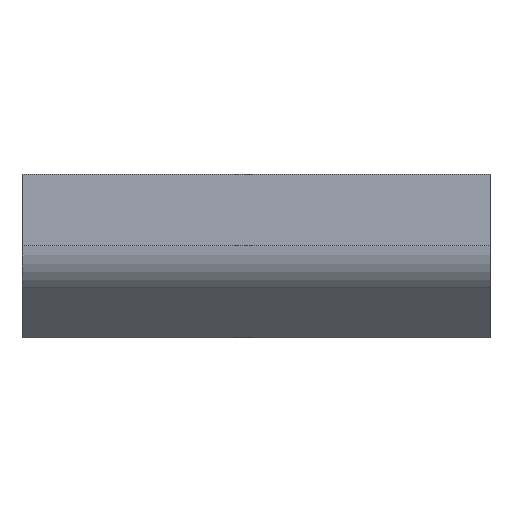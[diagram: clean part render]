
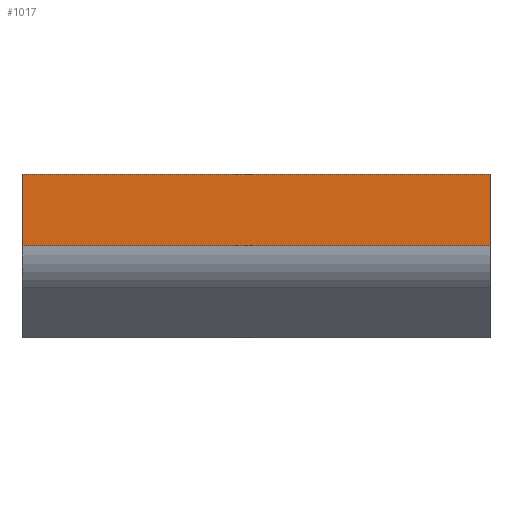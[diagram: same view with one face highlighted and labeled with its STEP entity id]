
A CAD part, front view. The second image highlights one B-rep face of the part: STEP entity #1017.
In plain terms, the highlighted planar face has unit normal (0, -1, 0).
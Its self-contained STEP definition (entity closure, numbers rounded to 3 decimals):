
#24 = VECTOR ( 'NONE', #1452, 1000. ) ;
#74 = DIRECTION ( 'NONE',  ( 0., 0., 1. ) ) ;
#250 = VERTEX_POINT ( 'NONE', #1034 ) ;
#267 = EDGE_LOOP ( 'NONE', ( #873, #318, #909, #705 ) ) ;
#294 = LINE ( 'NONE', #428, #959 ) ;
#318 = ORIENTED_EDGE ( 'NONE', *, *, #738, .F. ) ;
#428 = CARTESIAN_POINT ( 'NONE',  ( 300., -75., -91.777 ) ) ;
#457 = DIRECTION ( 'NONE',  ( 0., 0., -1. ) ) ;
#503 = VECTOR ( 'NONE', #1102, 1000. ) ;
#578 = LINE ( 'NONE', #1373, #991 ) ;
#673 = CARTESIAN_POINT ( 'NONE',  ( 300., -75., 0. ) ) ;
#705 = ORIENTED_EDGE ( 'NONE', *, *, #1672, .T. ) ;
#711 = FACE_OUTER_BOUND ( 'NONE', #267, .T. ) ;
#738 = EDGE_CURVE ( 'NONE', #1605, #1520, #294, .T. ) ;
#767 = CARTESIAN_POINT ( 'NONE',  ( 300., -75., -91.777 ) ) ;
#819 = DIRECTION ( 'NONE',  ( -1., 0., 0. ) ) ;
#873 = ORIENTED_EDGE ( 'NONE', *, *, #1459, .T. ) ;
#908 = CARTESIAN_POINT ( 'NONE',  ( -300., -75., -91.777 ) ) ;
#909 = ORIENTED_EDGE ( 'NONE', *, *, #1018, .F. ) ;
#959 = VECTOR ( 'NONE', #819, 1000. ) ;
#970 = PLANE ( 'NONE',  #1332 ) ;
#991 = VECTOR ( 'NONE', #457, 1000. ) ;
#1017 = ADVANCED_FACE ( 'NONE', ( #711 ), #970, .F. ) ;
#1018 = EDGE_CURVE ( 'NONE', #1645, #1605, #1227, .T. ) ;
#1034 = CARTESIAN_POINT ( 'NONE',  ( -300., -75., 0. ) ) ;
#1055 = LINE ( 'NONE', #1585, #24 ) ;
#1102 = DIRECTION ( 'NONE',  ( 0., 0., -1. ) ) ;
#1212 = DIRECTION ( 'NONE',  ( 0., 1., 0. ) ) ;
#1227 = LINE ( 'NONE', #1604, #503 ) ;
#1332 = AXIS2_PLACEMENT_3D ( 'NONE', #1339, #1212, #74 ) ;
#1339 = CARTESIAN_POINT ( 'NONE',  ( 300., -75., -91.777 ) ) ;
#1373 = CARTESIAN_POINT ( 'NONE',  ( -300., -75., -91.777 ) ) ;
#1452 = DIRECTION ( 'NONE',  ( -1., 0., 0. ) ) ;
#1459 = EDGE_CURVE ( 'NONE', #250, #1520, #578, .T. ) ;
#1520 = VERTEX_POINT ( 'NONE', #908 ) ;
#1585 = CARTESIAN_POINT ( 'NONE',  ( 300., -75., 0. ) ) ;
#1604 = CARTESIAN_POINT ( 'NONE',  ( 300., -75., -91.777 ) ) ;
#1605 = VERTEX_POINT ( 'NONE', #767 ) ;
#1645 = VERTEX_POINT ( 'NONE', #673 ) ;
#1672 = EDGE_CURVE ( 'NONE', #1645, #250, #1055, .T. ) ;
